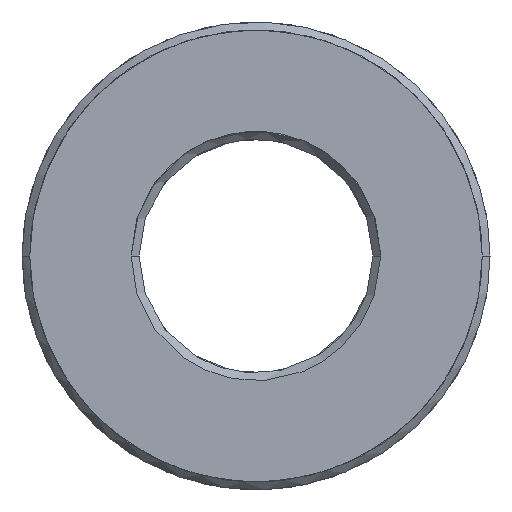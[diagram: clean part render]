
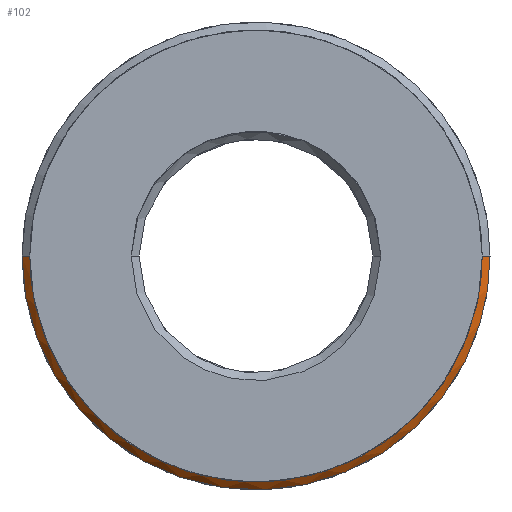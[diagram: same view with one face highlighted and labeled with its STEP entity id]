
A CAD part, left-side view. The second image highlights one B-rep face of the part: STEP entity #102.
In plain terms, the highlighted free-form (B-spline) face has degree [2, 1] with [9, 2] control points.
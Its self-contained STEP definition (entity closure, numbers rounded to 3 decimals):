
#102=ADVANCED_FACE('',(#166),#1576,.T.);
#166=FACE_OUTER_BOUND('',#228,.T.);
#228=EDGE_LOOP('',(#421,#422,#423,#424));
#421=ORIENTED_EDGE('',*,*,#1359,.T.);
#422=ORIENTED_EDGE('',*,*,#1360,.T.);
#423=ORIENTED_EDGE('',*,*,#1361,.T.);
#424=ORIENTED_EDGE('',*,*,#1362,.T.);
#663=B_SPLINE_CURVE_WITH_KNOTS('',1,(#3352,#3353),.UNSPECIFIED.,.F.,.F.,
(2,2),(-8.283,-5.142),.UNSPECIFIED.);
#664=B_SPLINE_CURVE_WITH_KNOTS('',1,(#3354,#3355),.UNSPECIFIED.,.F.,.F.,
(2,2),(-5.142,-4.142),.UNSPECIFIED.);
#665=B_SPLINE_CURVE_WITH_KNOTS('',1,(#3356,#3357),.UNSPECIFIED.,.F.,.F.,
(2,2),(-5.142,-4.142),.UNSPECIFIED.);
#666=B_SPLINE_CURVE_WITH_KNOTS('',1,(#3363,#3364),.UNSPECIFIED.,.F.,.F.,
(2,2),(-4.142,-1.),.UNSPECIFIED.);
#667=B_SPLINE_CURVE_WITH_KNOTS('',1,(#3365,#3366),.UNSPECIFIED.,.F.,.F.,
(2,2),(-1.,0.),.UNSPECIFIED.);
#668=B_SPLINE_CURVE_WITH_KNOTS('',1,(#3367,#3368),.UNSPECIFIED.,.F.,.F.,
(2,2),(-1.,0.),.UNSPECIFIED.);
#669=B_SPLINE_CURVE_WITH_KNOTS('',1,(#3369,#3370),.UNSPECIFIED.,.F.,.F.,
(2,2),(-4.142,-1.),.UNSPECIFIED.);
#690=B_SPLINE_CURVE_WITH_KNOTS('',1,(#3436,#3437),.UNSPECIFIED.,.F.,.F.,
(2,2),(-5.142,-4.142),.UNSPECIFIED.);
#692=B_SPLINE_CURVE_WITH_KNOTS('',1,(#3445,#3446),.UNSPECIFIED.,.F.,.F.,
(2,2),(-1.,0.),.UNSPECIFIED.);
#885=PCURVE('',#1576,#1109);
#886=PCURVE('',#1576,#1110);
#887=PCURVE('',#1576,#1111);
#888=PCURVE('',#1576,#1112);
#889=PCURVE('',#1577,#1113);
#906=PCURVE('',#1581,#1130);
#908=PCURVE('',#1581,#1132);
#910=PCURVE('',#1591,#1134);
#1109=DEFINITIONAL_REPRESENTATION('',(#663),#3532);
#1110=DEFINITIONAL_REPRESENTATION('',(#665),#3532);
#1111=DEFINITIONAL_REPRESENTATION('',(#666),#3532);
#1112=DEFINITIONAL_REPRESENTATION('',(#668),#3532);
#1113=DEFINITIONAL_REPRESENTATION('',(#669),#3532);
#1130=DEFINITIONAL_REPRESENTATION('',(#690),#3532);
#1132=DEFINITIONAL_REPRESENTATION('',(#692),#3532);
#1134=DEFINITIONAL_REPRESENTATION('',(#1462),#3532);
#1247=SURFACE_CURVE('',#1453,(#885,#910),.PCURVE_S1.);
#1248=SURFACE_CURVE('',#664,(#886,#906),.PCURVE_S1.);
#1249=SURFACE_CURVE('',#1454,(#887,#889),.PCURVE_S1.);
#1250=SURFACE_CURVE('',#667,(#888,#908),.PCURVE_S1.);
#1359=EDGE_CURVE('',#1529,#1531,#1247,.T.);
#1360=EDGE_CURVE('',#1531,#1532,#1248,.T.);
#1361=EDGE_CURVE('',#1532,#1530,#1249,.T.);
#1362=EDGE_CURVE('',#1530,#1529,#1250,.T.);
#1453=(
BOUNDED_CURVE()
B_SPLINE_CURVE(2,(#3347,#3348,#3349,#3350,#3351),.UNSPECIFIED.,.F.,.F.)
B_SPLINE_CURVE_WITH_KNOTS((3,2,3),(-8.283,-6.712,-5.142),
 .UNSPECIFIED.)
CURVE()
GEOMETRIC_REPRESENTATION_ITEM()
RATIONAL_B_SPLINE_CURVE((1.,0.707,1.,0.707,1.))
REPRESENTATION_ITEM('')
);
#1454=(
BOUNDED_CURVE()
B_SPLINE_CURVE(2,(#3358,#3359,#3360,#3361,#3362),.UNSPECIFIED.,.F.,.F.)
B_SPLINE_CURVE_WITH_KNOTS((3,2,3),(-4.142,-2.571,-1.),
 .UNSPECIFIED.)
CURVE()
GEOMETRIC_REPRESENTATION_ITEM()
RATIONAL_B_SPLINE_CURVE((1.,0.707,1.,0.707,1.))
REPRESENTATION_ITEM('')
);
#1462=(
BOUNDED_CURVE()
B_SPLINE_CURVE(2,(#3452,#3453,#3454,#3455,#3456),.UNSPECIFIED.,.F.,.F.)
B_SPLINE_CURVE_WITH_KNOTS((3,2,3),(-8.283,-6.712,-5.142),
 .UNSPECIFIED.)
CURVE()
GEOMETRIC_REPRESENTATION_ITEM()
RATIONAL_B_SPLINE_CURVE((1.,0.707,1.,0.707,1.))
REPRESENTATION_ITEM('')
);
#1529=VERTEX_POINT('',#3283);
#1530=VERTEX_POINT('',#3284);
#1531=VERTEX_POINT('',#3285);
#1532=VERTEX_POINT('',#3286);
#1576=(
BOUNDED_SURFACE()
B_SPLINE_SURFACE(2,1,((#3111,#3112),(#3113,#3114),(#3115,#3116),(#3117,#3118),
(#3119,#3120),(#3121,#3122),(#3123,#3124),(#3125,#3126),(#3127,#3128)),
 .UNSPECIFIED.,.T.,.F.,.F.)
B_SPLINE_SURFACE_WITH_KNOTS((3,2,2,2,3),(2,2),(0.,1.571,3.142,
4.712,6.283),(0.,1.),.UNSPECIFIED.)
GEOMETRIC_REPRESENTATION_ITEM()
RATIONAL_B_SPLINE_SURFACE(((1.,1.),(0.707,0.707),
(1.,1.),(0.707,0.707),(1.,1.),(0.707,
0.707),(1.,1.),(0.707,0.707),(1.,1.)))
REPRESENTATION_ITEM('')
SURFACE()
);
#1577=(
BOUNDED_SURFACE()
B_SPLINE_SURFACE(2,1,((#3129,#3130),(#3131,#3132),(#3133,#3134),(#3135,#3136),
(#3137,#3138),(#3139,#3140),(#3141,#3142),(#3143,#3144),(#3145,#3146)),
 .UNSPECIFIED.,.T.,.F.,.F.)
B_SPLINE_SURFACE_WITH_KNOTS((3,2,2,2,3),(2,2),(0.,1.571,3.142,
4.712,6.283),(0.,1.),.UNSPECIFIED.)
GEOMETRIC_REPRESENTATION_ITEM()
RATIONAL_B_SPLINE_SURFACE(((1.,1.),(0.707,0.707),
(1.,1.),(0.707,0.707),(1.,1.),(0.707,
0.707),(1.,1.),(0.707,0.707),(1.,1.)))
REPRESENTATION_ITEM('')
SURFACE()
);
#1581=(
BOUNDED_SURFACE()
B_SPLINE_SURFACE(2,1,((#3201,#3202),(#3203,#3204),(#3205,#3206),(#3207,#3208),
(#3209,#3210),(#3211,#3212),(#3213,#3214),(#3215,#3216),(#3217,#3218)),
 .UNSPECIFIED.,.T.,.F.,.F.)
B_SPLINE_SURFACE_WITH_KNOTS((3,2,2,2,3),(2,2),(0.,1.571,3.142,
4.712,6.283),(0.,1.),.UNSPECIFIED.)
GEOMETRIC_REPRESENTATION_ITEM()
RATIONAL_B_SPLINE_SURFACE(((1.,1.),(0.707,0.707),
(1.,1.),(0.707,0.707),(1.,1.),(0.707,
0.707),(1.,1.),(0.707,0.707),(1.,1.)))
REPRESENTATION_ITEM('')
SURFACE()
);
#1591=PLANE('',#1619);
#1619=AXIS2_PLACEMENT_3D('',#3219,#1630,$);
#1630=DIRECTION('',(-1.,0.,0.));
#3111=CARTESIAN_POINT('',(-701.8,285.,30.));
#3112=CARTESIAN_POINT('',(-693.315,276.515,30.));
#3113=CARTESIAN_POINT('',(-701.8,285.,30.));
#3114=CARTESIAN_POINT('',(-693.315,276.515,21.515));
#3115=CARTESIAN_POINT('',(-701.8,285.,30.));
#3116=CARTESIAN_POINT('',(-693.315,285.,21.515));
#3117=CARTESIAN_POINT('',(-701.8,285.,30.));
#3118=CARTESIAN_POINT('',(-693.315,293.485,21.515));
#3119=CARTESIAN_POINT('',(-701.8,285.,30.));
#3120=CARTESIAN_POINT('',(-693.315,293.485,30.));
#3121=CARTESIAN_POINT('',(-701.8,285.,30.));
#3122=CARTESIAN_POINT('',(-693.315,293.485,38.485));
#3123=CARTESIAN_POINT('',(-701.8,285.,30.));
#3124=CARTESIAN_POINT('',(-693.315,285.,38.485));
#3125=CARTESIAN_POINT('',(-701.8,285.,30.));
#3126=CARTESIAN_POINT('',(-693.315,276.515,38.485));
#3127=CARTESIAN_POINT('',(-701.8,285.,30.));
#3128=CARTESIAN_POINT('',(-693.315,276.515,30.));
#3129=CARTESIAN_POINT('',(-695.8,279.,30.));
#3130=CARTESIAN_POINT('',(-694.2,279.,30.));
#3131=CARTESIAN_POINT('',(-695.8,279.,24.));
#3132=CARTESIAN_POINT('',(-694.2,279.,24.));
#3133=CARTESIAN_POINT('',(-695.8,285.,24.));
#3134=CARTESIAN_POINT('',(-694.2,285.,24.));
#3135=CARTESIAN_POINT('',(-695.8,291.,24.));
#3136=CARTESIAN_POINT('',(-694.2,291.,24.));
#3137=CARTESIAN_POINT('',(-695.8,291.,30.));
#3138=CARTESIAN_POINT('',(-694.2,291.,30.));
#3139=CARTESIAN_POINT('',(-695.8,291.,36.));
#3140=CARTESIAN_POINT('',(-694.2,291.,36.));
#3141=CARTESIAN_POINT('',(-695.8,285.,36.));
#3142=CARTESIAN_POINT('',(-694.2,285.,36.));
#3143=CARTESIAN_POINT('',(-695.8,279.,36.));
#3144=CARTESIAN_POINT('',(-694.2,279.,36.));
#3145=CARTESIAN_POINT('',(-695.8,279.,30.));
#3146=CARTESIAN_POINT('',(-694.2,279.,30.));
#3201=CARTESIAN_POINT('',(-701.8,285.,30.));
#3202=CARTESIAN_POINT('',(-693.315,276.515,30.));
#3203=CARTESIAN_POINT('',(-701.8,285.,30.));
#3204=CARTESIAN_POINT('',(-693.315,276.515,21.515));
#3205=CARTESIAN_POINT('',(-701.8,285.,30.));
#3206=CARTESIAN_POINT('',(-693.315,285.,21.515));
#3207=CARTESIAN_POINT('',(-701.8,285.,30.));
#3208=CARTESIAN_POINT('',(-693.315,293.485,21.515));
#3209=CARTESIAN_POINT('',(-701.8,285.,30.));
#3210=CARTESIAN_POINT('',(-693.315,293.485,30.));
#3211=CARTESIAN_POINT('',(-701.8,285.,30.));
#3212=CARTESIAN_POINT('',(-693.315,293.485,38.485));
#3213=CARTESIAN_POINT('',(-701.8,285.,30.));
#3214=CARTESIAN_POINT('',(-693.315,285.,38.485));
#3215=CARTESIAN_POINT('',(-701.8,285.,30.));
#3216=CARTESIAN_POINT('',(-693.315,276.515,38.485));
#3217=CARTESIAN_POINT('',(-701.8,285.,30.));
#3218=CARTESIAN_POINT('',(-693.315,276.515,30.));
#3219=CARTESIAN_POINT('',(-696.,290.8,35.8));
#3283=CARTESIAN_POINT('',(-696.,279.2,30.));
#3284=CARTESIAN_POINT('',(-695.8,279.,30.));
#3285=CARTESIAN_POINT('',(-696.,290.8,30.));
#3286=CARTESIAN_POINT('',(-695.8,291.,30.));
#3347=CARTESIAN_POINT('',(-696.,279.2,30.));
#3348=CARTESIAN_POINT('',(-696.,279.2,24.2));
#3349=CARTESIAN_POINT('',(-696.,285.,24.2));
#3350=CARTESIAN_POINT('',(-696.,290.8,24.2));
#3351=CARTESIAN_POINT('',(-696.,290.8,30.));
#3352=CARTESIAN_POINT('',(0.,0.684));
#3353=CARTESIAN_POINT('',(3.142,0.684));
#3354=CARTESIAN_POINT('',(-696.,290.8,30.));
#3355=CARTESIAN_POINT('',(-695.8,291.,30.));
#3356=CARTESIAN_POINT('',(3.142,0.684));
#3357=CARTESIAN_POINT('',(3.142,0.707));
#3358=CARTESIAN_POINT('',(-695.8,291.,30.));
#3359=CARTESIAN_POINT('',(-695.8,291.,24.));
#3360=CARTESIAN_POINT('',(-695.8,285.,24.));
#3361=CARTESIAN_POINT('',(-695.8,279.,24.));
#3362=CARTESIAN_POINT('',(-695.8,279.,30.));
#3363=CARTESIAN_POINT('',(3.142,0.707));
#3364=CARTESIAN_POINT('',(0.,0.707));
#3365=CARTESIAN_POINT('',(-695.8,279.,30.));
#3366=CARTESIAN_POINT('',(-696.,279.2,30.));
#3367=CARTESIAN_POINT('',(0.,0.707));
#3368=CARTESIAN_POINT('',(0.,0.684));
#3369=CARTESIAN_POINT('',(3.142,0.));
#3370=CARTESIAN_POINT('',(0.,0.));
#3436=CARTESIAN_POINT('',(3.142,0.684));
#3437=CARTESIAN_POINT('',(3.142,0.707));
#3445=CARTESIAN_POINT('',(6.283,0.707));
#3446=CARTESIAN_POINT('',(6.283,0.684));
#3452=CARTESIAN_POINT('',(0.5,1.));
#3453=CARTESIAN_POINT('',(1.,1.));
#3454=CARTESIAN_POINT('',(1.,0.5));
#3455=CARTESIAN_POINT('',(1.,0.));
#3456=CARTESIAN_POINT('',(0.5,0.));
#3532=(
GEOMETRIC_REPRESENTATION_CONTEXT(2)
PARAMETRIC_REPRESENTATION_CONTEXT()
REPRESENTATION_CONTEXT('pspace','')
);
